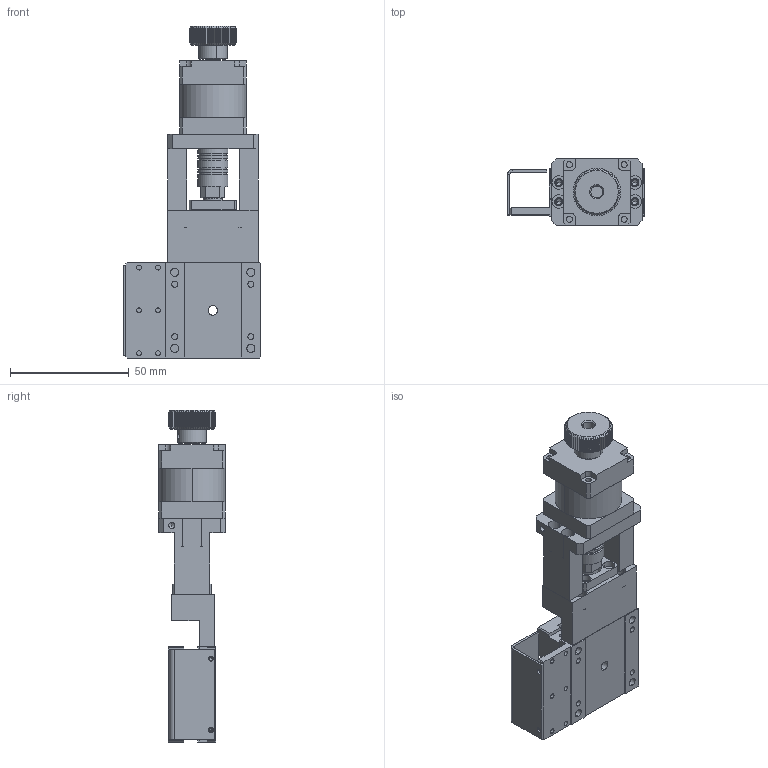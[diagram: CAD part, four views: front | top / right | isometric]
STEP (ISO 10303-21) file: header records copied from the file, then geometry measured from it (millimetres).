
FILE_DESCRIPTION (( 'STEP AP203' ), '1' );
FILE_NAME ('JMSX-40L.STEP', '2019-02-18T02:45:30', ( 'Windows 餌辨濠' ), ( '' ), 'SwSTEP 2.0', 'SolidWorks 2018', '' );
FILE_SCHEMA (( 'CONFIG_CONTROL_DESIGN' ));
Length unit declared in the file: millimetre
Products named in the file (1): JMSX-40L
Bounding box: 57.5 x 28 x 139.5 mm (x, y, z)
Volume: 68283.3 mm3; surface area: 40866.4 mm2
Topology: 13 solids, 13 shells, 849 faces, 2245 edges, 1422 vertices
Faces by surface type: cylinder 413, plane 346, cone 82, bspline 8
Entity records: 29140 total; most frequent: CARTESIAN_POINT 8467, ORIENTED_EDGE 4346, DIRECTION 4127, EDGE_CURVE 2173, AXIS2_PLACEMENT_3D 1528, VERTEX_POINT 1422, VECTOR 1071, LINE 1071
